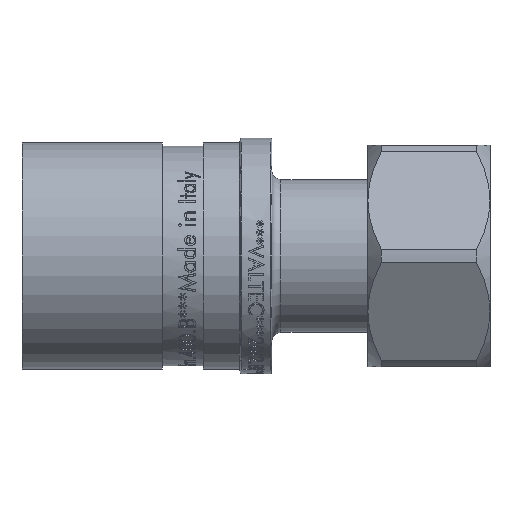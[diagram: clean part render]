
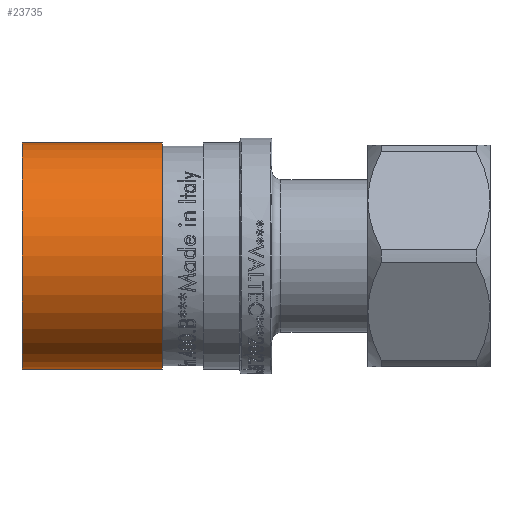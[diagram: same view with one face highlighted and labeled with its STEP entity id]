
A CAD part, front view. The second image highlights one B-rep face of the part: STEP entity #23735.
In plain terms, the highlighted cylindrical face has radius 12.5 mm (diameter 25 mm), a full revolution.
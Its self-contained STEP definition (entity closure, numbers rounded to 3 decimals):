
#1777=CIRCLE('',#24826,12.5);
#1778=CIRCLE('',#24827,12.5);
#1789=CIRCLE('',#24846,12.5);
#1790=CIRCLE('',#24847,12.5);
#3213=FACE_OUTER_BOUND('',#4644,.T.);
#4644=EDGE_LOOP('',(#21993,#21994,#21995,#21996,#21997,#21998));
#7629=LINE('',#55744,#9134);
#9134=VECTOR('',#28613,12.5);
#11428=VERTEX_POINT('',#55702);
#11429=VERTEX_POINT('',#55703);
#11440=VERTEX_POINT('',#55739);
#11441=VERTEX_POINT('',#55740);
#14972=EDGE_CURVE('',#11428,#11429,#1777,.T.);
#14973=EDGE_CURVE('',#11429,#11428,#1778,.T.);
#14989=EDGE_CURVE('',#11440,#11441,#1789,.T.);
#14990=EDGE_CURVE('',#11441,#11440,#1790,.T.);
#14991=EDGE_CURVE('',#11429,#11441,#7629,.T.);
#21993=ORIENTED_EDGE('',*,*,#14972,.F.);
#21994=ORIENTED_EDGE('',*,*,#14973,.F.);
#21995=ORIENTED_EDGE('',*,*,#14991,.T.);
#21996=ORIENTED_EDGE('',*,*,#14990,.T.);
#21997=ORIENTED_EDGE('',*,*,#14989,.T.);
#21998=ORIENTED_EDGE('',*,*,#14991,.F.);
#22461=CYLINDRICAL_SURFACE('',#24848,12.5);
#23735=ADVANCED_FACE('',(#3213),#22461,.T.);
#24826=AXIS2_PLACEMENT_3D('',#55704,#28562,#28563);
#24827=AXIS2_PLACEMENT_3D('',#55705,#28564,#28565);
#24846=AXIS2_PLACEMENT_3D('',#55741,#28607,#28608);
#24847=AXIS2_PLACEMENT_3D('',#55742,#28609,#28610);
#24848=AXIS2_PLACEMENT_3D('',#55743,#28611,#28612);
#28562=DIRECTION('center_axis',(1.,0.,0.));
#28563=DIRECTION('ref_axis',(0.,0.,-1.));
#28564=DIRECTION('center_axis',(1.,0.,0.));
#28565=DIRECTION('ref_axis',(0.,0.,-1.));
#28607=DIRECTION('center_axis',(1.,0.,0.));
#28608=DIRECTION('ref_axis',(0.,0.,-1.));
#28609=DIRECTION('center_axis',(1.,0.,0.));
#28610=DIRECTION('ref_axis',(0.,0.,-1.));
#28611=DIRECTION('center_axis',(1.,0.,0.));
#28612=DIRECTION('ref_axis',(0.,1.,0.));
#28613=DIRECTION('',(-1.,0.,0.));
#55702=CARTESIAN_POINT('',(-15.511,12.5,0.));
#55703=CARTESIAN_POINT('',(-15.511,-12.5,0.));
#55704=CARTESIAN_POINT('Origin',(-15.511,0.,0.));
#55705=CARTESIAN_POINT('Origin',(-15.511,0.,0.));
#55739=CARTESIAN_POINT('',(-31.011,12.5,0.));
#55740=CARTESIAN_POINT('',(-31.011,-12.5,0.));
#55741=CARTESIAN_POINT('Origin',(-31.011,0.,0.));
#55742=CARTESIAN_POINT('Origin',(-31.011,0.,0.));
#55743=CARTESIAN_POINT('Origin',(-23.261,0.,0.));
#55744=CARTESIAN_POINT('',(-23.261,-12.5,0.));
